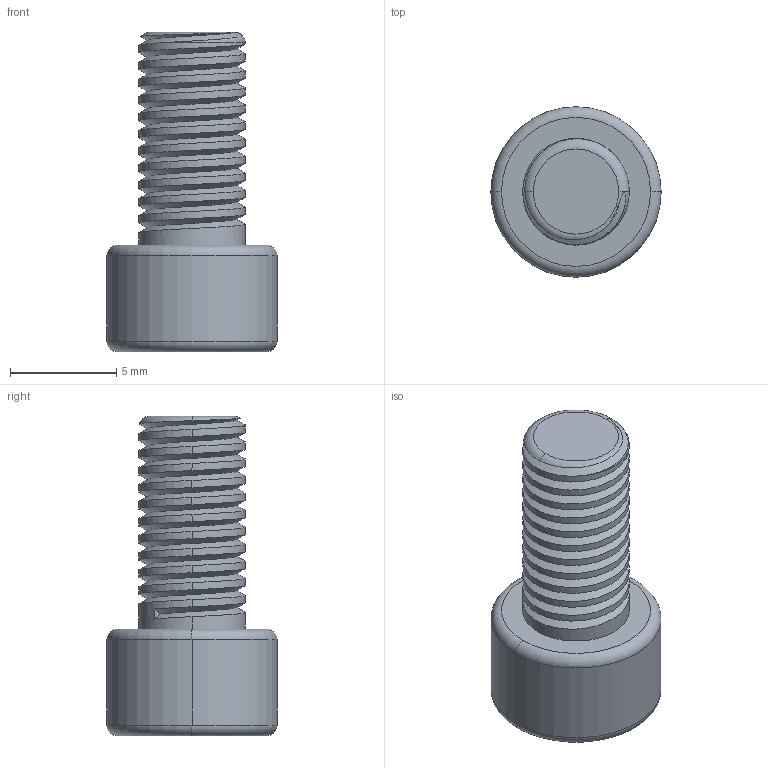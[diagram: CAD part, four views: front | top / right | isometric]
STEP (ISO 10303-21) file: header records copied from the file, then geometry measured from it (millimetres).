
FILE_DESCRIPTION (( 'STEP AP203' ), '1' );
FILE_NAME ('142-CE-IB-M5.STEP', '2015-07-09T09:02:41', ( '' ), ( '' ), 'SwSTEP 2.0', 'SolidWorks 2013', '' );
FILE_SCHEMA (( 'CONFIG_CONTROL_DESIGN' ));
Length unit declared in the file: millimetre
Products named in the file (1): 142-CE-IB-M5
Bounding box: 8 x 8 x 15 mm (x, y, z)
Volume: 386.7 mm3; surface area: 479.7 mm2
Topology: 1 solids, 1 shells, 45 faces, 118 edges, 77 vertices
Faces by surface type: cylinder 26, plane 11, torus 6, bspline 2
Entity records: 2688 total; most frequent: CARTESIAN_POINT 1638, ORIENTED_EDGE 236, DIRECTION 175, EDGE_CURVE 118, VERTEX_POINT 77, AXIS2_PLACEMENT_3D 64, EDGE_LOOP 47, VECTOR 47
